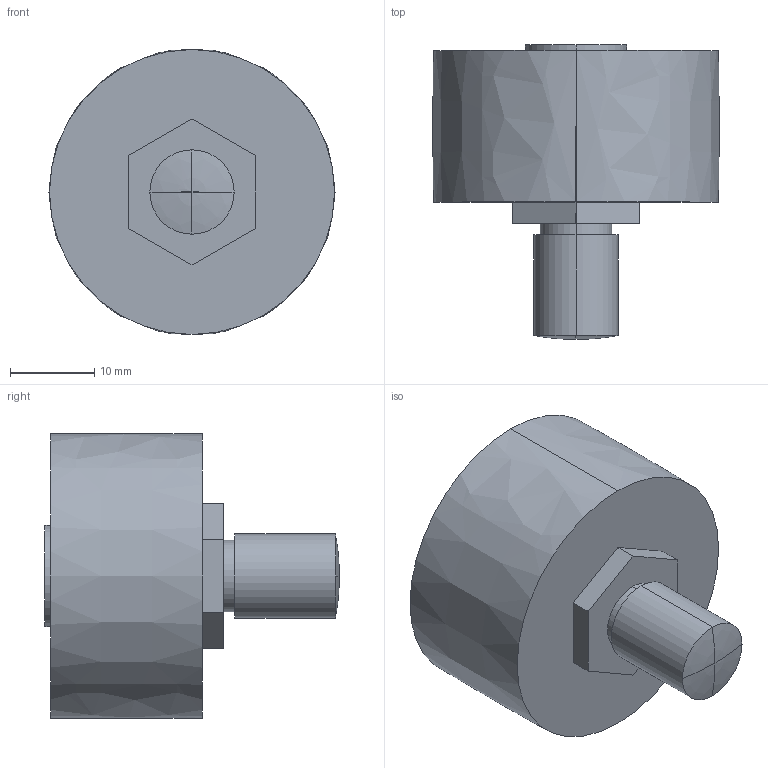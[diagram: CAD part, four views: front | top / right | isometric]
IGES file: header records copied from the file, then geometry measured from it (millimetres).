
Start section: 3D InterOp IGES (v. 2019 1.0.2), Spatial Corp. Copyright (c) 1999-2017.
Global section: file name: BHR 34 C.igs; native system: Spatial Corp.; preprocessor: 3D InterOp GENERIC/IGES 3.0; author: Noname; organization: Noname; date: 20220628.172228; units: millimetre
Bounding box: 33.98 x 35 x 33.84 mm (x, y, z)
Surface area: 4387.7 mm2 (no closed solid volume)
Topology: 0 solids, 0 shells, 30 faces, 136 edges, 132 vertices
Faces by surface type: extrusion 18, revolution 10, bspline 2
